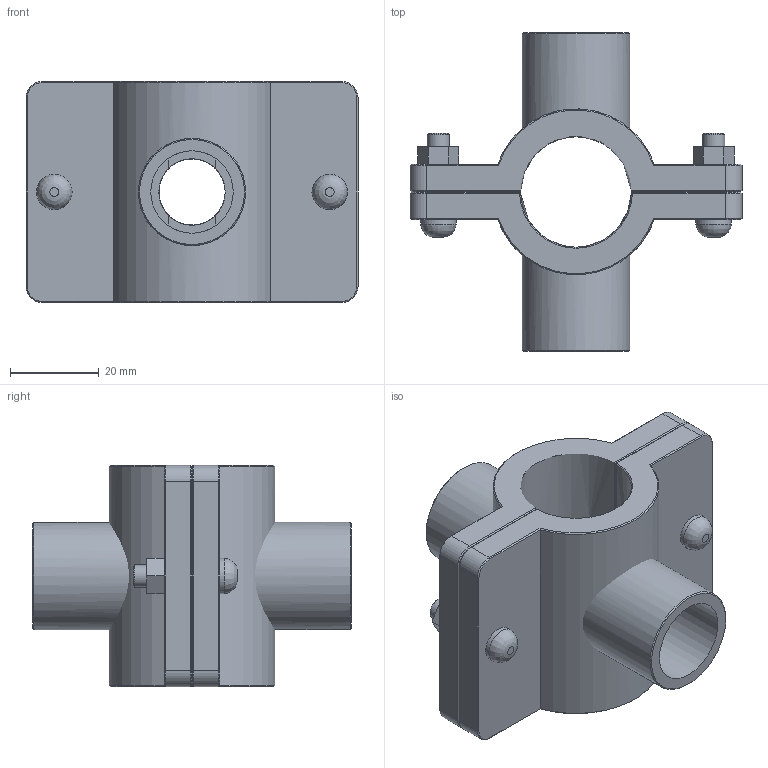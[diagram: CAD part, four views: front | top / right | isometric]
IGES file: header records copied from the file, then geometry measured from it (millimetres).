
Global section: file name: 161760025005_161860025005.ipt; native system: Autodesk Inventor 2015; preprocessor: unknown; author: KIM; date: 20170618.093637; units: millimetre
Bounding box: 75 x 72 x 50 mm (x, y, z)
Volume: 63251.2 mm3; surface area: 28562.5 mm2
Topology: 3 solids, 3 shells, 131 faces, 307 edges, 192 vertices
Faces by surface type: plane 70, cone 24, revolution 19, cylinder 18
Full cylindrical faces by diameter (mm): 5 x2, 8 x4, 24.22 x2
